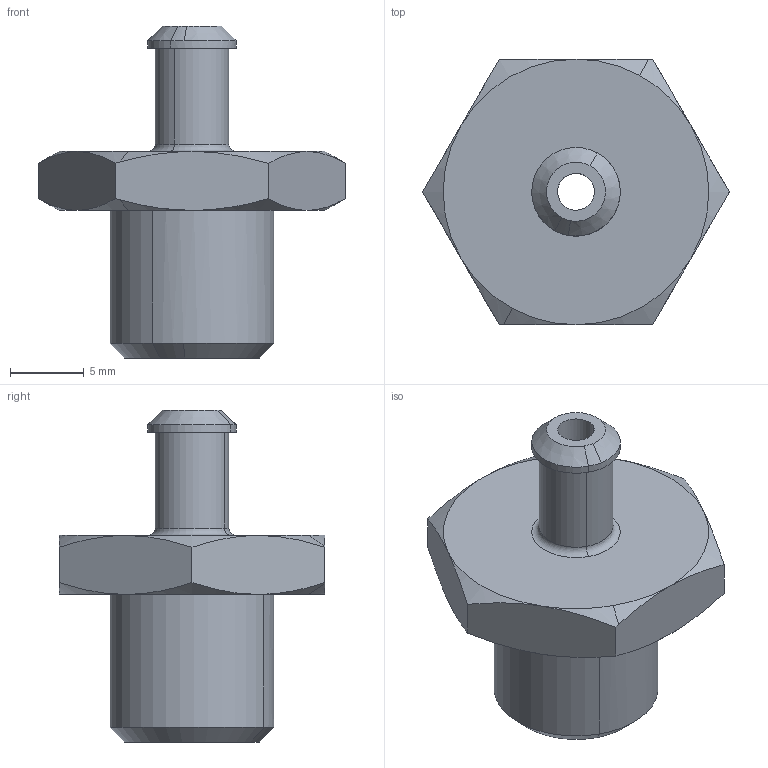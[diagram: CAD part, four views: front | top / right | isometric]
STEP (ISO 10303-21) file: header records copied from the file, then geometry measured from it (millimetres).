
FILE_DESCRIPTION(('3DEXPERIENCE STEP','CAx-IF Rec.Pracs.--- Model Styling and Organization---1.5--- 2016-08-15','CAx-IF Rec.Pracs.---Supplemental Geometry---1.0---2011-11-01','CAx-IF Rec.Pracs.--- Composite Materials ---3.4---2017-06-13','CAx-IF Rec.Pracs.---Tessellated 3D Geometry---1.0---2015-12-17'),'2;1');
FILE_NAME('\\?\D:\School\CarTech\CTU.25\Tutorials\Model\OEM\MC_Inlet.stp','2024-09-26T02:36:01+00:00',('none'),('none'),'3DEXPERIENCE Platform3DEXPERIENCE R2024x HotFix 4.24','3DEXPERIENCE Platform STEP AP242 v3','none');
FILE_SCHEMA(('AP242_MANAGED_MODEL_BASED_3D_ENGINEERING_MIM_LF {1 0 10303 442 1 1 4}'));
Length unit declared in the file: millimetre
Products named in the file (1): Master_cylinder_hose_inlet_fitting_R
Bounding box: 20.78 x 18 x 22.5 mm (x, y, z)
Volume: 1881.3 mm3; surface area: 1524.1 mm2
Topology: 1 solids, 1 shells, 47 faces, 106 edges, 64 vertices
Faces by surface type: cone 24, plane 11, cylinder 10, torus 2
Entity records: 1481 total; most frequent: CARTESIAN_POINT 562, ORIENTED_EDGE 212, DIRECTION 127, EDGE_CURVE 106, AXIS2_PLACEMENT_3D 73, VERTEX_POINT 64, EDGE_LOOP 52, ADVANCED_FACE 47
